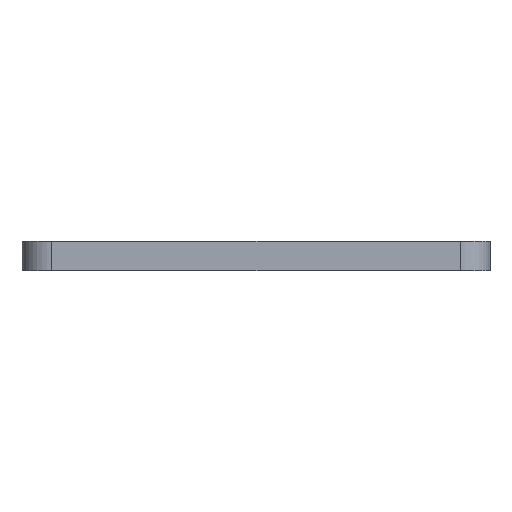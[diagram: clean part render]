
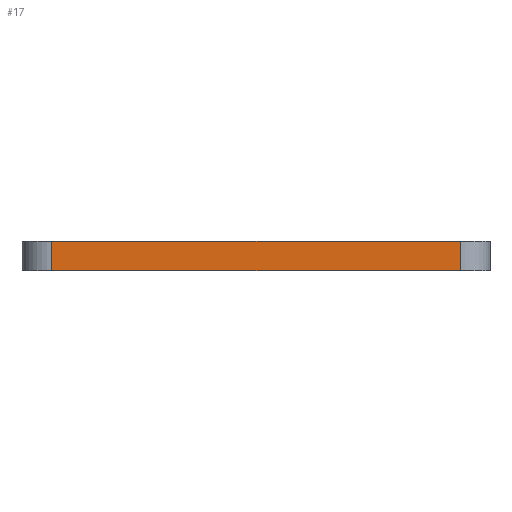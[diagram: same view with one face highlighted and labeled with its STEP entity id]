
A CAD part, left-side view. The second image highlights one B-rep face of the part: STEP entity #17.
In plain terms, the highlighted planar face has unit normal (-1, 0, 0).
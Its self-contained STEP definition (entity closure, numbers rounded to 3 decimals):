
#17 = ADVANCED_FACE('',(#18),#32,.T.);
#18 = FACE_BOUND('',#19,.T.);
#19 = EDGE_LOOP('',(#20,#55,#83,#111));
#20 = ORIENTED_EDGE('',*,*,#21,.T.);
#21 = EDGE_CURVE('',#22,#24,#26,.T.);
#22 = VERTEX_POINT('',#23);
#23 = CARTESIAN_POINT('',(-35.3,-20.55,0.));
#24 = VERTEX_POINT('',#25);
#25 = CARTESIAN_POINT('',(-35.3,-20.55,3.));
#26 = SURFACE_CURVE('',#27,(#31,#43),.PCURVE_S1.);
#27 = LINE('',#28,#29);
#28 = CARTESIAN_POINT('',(-35.3,-20.55,0.));
#29 = VECTOR('',#30,1.);
#30 = DIRECTION('',(0.,0.,1.));
#31 = PCURVE('',#32,#37);
#32 = PLANE('',#33);
#33 = AXIS2_PLACEMENT_3D('',#34,#35,#36);
#34 = CARTESIAN_POINT('',(-35.3,-20.55,0.));
#35 = DIRECTION('',(-1.,0.,0.));
#36 = DIRECTION('',(0.,1.,0.));
#37 = DEFINITIONAL_REPRESENTATION('',(#38),#42);
#38 = LINE('',#39,#40);
#39 = CARTESIAN_POINT('',(0.,0.));
#40 = VECTOR('',#41,1.);
#41 = DIRECTION('',(0.,-1.));
#42 = ( GEOMETRIC_REPRESENTATION_CONTEXT(2) 
PARAMETRIC_REPRESENTATION_CONTEXT() REPRESENTATION_CONTEXT('2D SPACE',''
  ) );
#43 = PCURVE('',#44,#49);
#44 = CYLINDRICAL_SURFACE('',#45,3.);
#45 = AXIS2_PLACEMENT_3D('',#46,#47,#48);
#46 = CARTESIAN_POINT('',(-32.3,-20.55,0.));
#47 = DIRECTION('',(-0.,-0.,-1.));
#48 = DIRECTION('',(1.,0.,0.));
#49 = DEFINITIONAL_REPRESENTATION('',(#50),#54);
#50 = LINE('',#51,#52);
#51 = CARTESIAN_POINT('',(-3.142,0.));
#52 = VECTOR('',#53,1.);
#53 = DIRECTION('',(-0.,-1.));
#54 = ( GEOMETRIC_REPRESENTATION_CONTEXT(2) 
PARAMETRIC_REPRESENTATION_CONTEXT() REPRESENTATION_CONTEXT('2D SPACE',''
  ) );
#55 = ORIENTED_EDGE('',*,*,#56,.T.);
#56 = EDGE_CURVE('',#24,#57,#59,.T.);
#57 = VERTEX_POINT('',#58);
#58 = CARTESIAN_POINT('',(-35.3,20.55,3.));
#59 = SURFACE_CURVE('',#60,(#64,#71),.PCURVE_S1.);
#60 = LINE('',#61,#62);
#61 = CARTESIAN_POINT('',(-35.3,0.,3.));
#62 = VECTOR('',#63,1.);
#63 = DIRECTION('',(0.,1.,0.));
#64 = PCURVE('',#32,#65);
#65 = DEFINITIONAL_REPRESENTATION('',(#66),#70);
#66 = LINE('',#67,#68);
#67 = CARTESIAN_POINT('',(20.55,-3.));
#68 = VECTOR('',#69,1.);
#69 = DIRECTION('',(1.,0.));
#70 = ( GEOMETRIC_REPRESENTATION_CONTEXT(2) 
PARAMETRIC_REPRESENTATION_CONTEXT() REPRESENTATION_CONTEXT('2D SPACE',''
  ) );
#71 = PCURVE('',#72,#77);
#72 = PLANE('',#73);
#73 = AXIS2_PLACEMENT_3D('',#74,#75,#76);
#74 = CARTESIAN_POINT('',(0.,0.,3.));
#75 = DIRECTION('',(0.,0.,1.));
#76 = DIRECTION('',(1.,0.,0.));
#77 = DEFINITIONAL_REPRESENTATION('',(#78),#82);
#78 = LINE('',#79,#80);
#79 = CARTESIAN_POINT('',(-35.3,0.));
#80 = VECTOR('',#81,1.);
#81 = DIRECTION('',(0.,1.));
#82 = ( GEOMETRIC_REPRESENTATION_CONTEXT(2) 
PARAMETRIC_REPRESENTATION_CONTEXT() REPRESENTATION_CONTEXT('2D SPACE',''
  ) );
#83 = ORIENTED_EDGE('',*,*,#84,.F.);
#84 = EDGE_CURVE('',#85,#57,#87,.T.);
#85 = VERTEX_POINT('',#86);
#86 = CARTESIAN_POINT('',(-35.3,20.55,0.));
#87 = SURFACE_CURVE('',#88,(#92,#99),.PCURVE_S1.);
#88 = LINE('',#89,#90);
#89 = CARTESIAN_POINT('',(-35.3,20.55,0.));
#90 = VECTOR('',#91,1.);
#91 = DIRECTION('',(0.,0.,1.));
#92 = PCURVE('',#32,#93);
#93 = DEFINITIONAL_REPRESENTATION('',(#94),#98);
#94 = LINE('',#95,#96);
#95 = CARTESIAN_POINT('',(41.1,0.));
#96 = VECTOR('',#97,1.);
#97 = DIRECTION('',(0.,-1.));
#98 = ( GEOMETRIC_REPRESENTATION_CONTEXT(2) 
PARAMETRIC_REPRESENTATION_CONTEXT() REPRESENTATION_CONTEXT('2D SPACE',''
  ) );
#99 = PCURVE('',#100,#105);
#100 = CYLINDRICAL_SURFACE('',#101,3.);
#101 = AXIS2_PLACEMENT_3D('',#102,#103,#104);
#102 = CARTESIAN_POINT('',(-32.3,20.55,0.));
#103 = DIRECTION('',(-0.,-0.,-1.));
#104 = DIRECTION('',(1.,0.,0.));
#105 = DEFINITIONAL_REPRESENTATION('',(#106),#110);
#106 = LINE('',#107,#108);
#107 = CARTESIAN_POINT('',(-3.142,0.));
#108 = VECTOR('',#109,1.);
#109 = DIRECTION('',(-0.,-1.));
#110 = ( GEOMETRIC_REPRESENTATION_CONTEXT(2) 
PARAMETRIC_REPRESENTATION_CONTEXT() REPRESENTATION_CONTEXT('2D SPACE',''
  ) );
#111 = ORIENTED_EDGE('',*,*,#112,.F.);
#112 = EDGE_CURVE('',#22,#85,#113,.T.);
#113 = SURFACE_CURVE('',#114,(#118,#125),.PCURVE_S1.);
#114 = LINE('',#115,#116);
#115 = CARTESIAN_POINT('',(-35.3,0.,0.));
#116 = VECTOR('',#117,1.);
#117 = DIRECTION('',(0.,1.,0.));
#118 = PCURVE('',#32,#119);
#119 = DEFINITIONAL_REPRESENTATION('',(#120),#124);
#120 = LINE('',#121,#122);
#121 = CARTESIAN_POINT('',(20.55,0.));
#122 = VECTOR('',#123,1.);
#123 = DIRECTION('',(1.,0.));
#124 = ( GEOMETRIC_REPRESENTATION_CONTEXT(2) 
PARAMETRIC_REPRESENTATION_CONTEXT() REPRESENTATION_CONTEXT('2D SPACE',''
  ) );
#125 = PCURVE('',#126,#131);
#126 = PLANE('',#127);
#127 = AXIS2_PLACEMENT_3D('',#128,#129,#130);
#128 = CARTESIAN_POINT('',(0.,0.,0.));
#129 = DIRECTION('',(0.,0.,1.));
#130 = DIRECTION('',(1.,0.,0.));
#131 = DEFINITIONAL_REPRESENTATION('',(#132),#136);
#132 = LINE('',#133,#134);
#133 = CARTESIAN_POINT('',(-35.3,0.));
#134 = VECTOR('',#135,1.);
#135 = DIRECTION('',(0.,1.));
#136 = ( GEOMETRIC_REPRESENTATION_CONTEXT(2) 
PARAMETRIC_REPRESENTATION_CONTEXT() REPRESENTATION_CONTEXT('2D SPACE',''
  ) );
